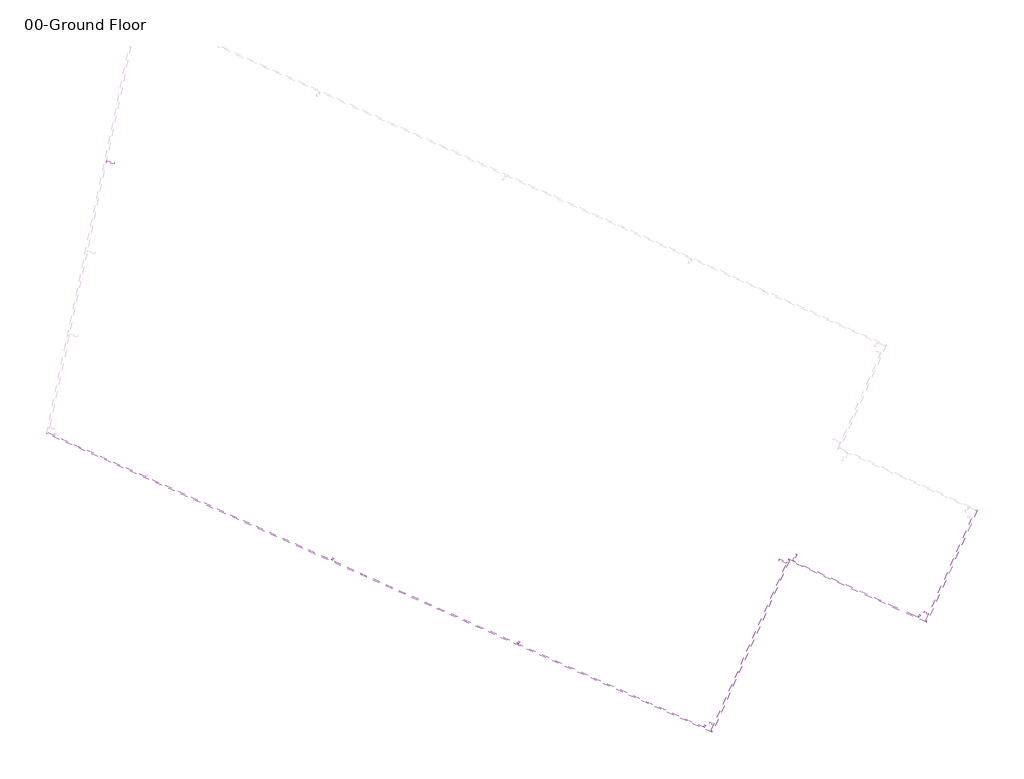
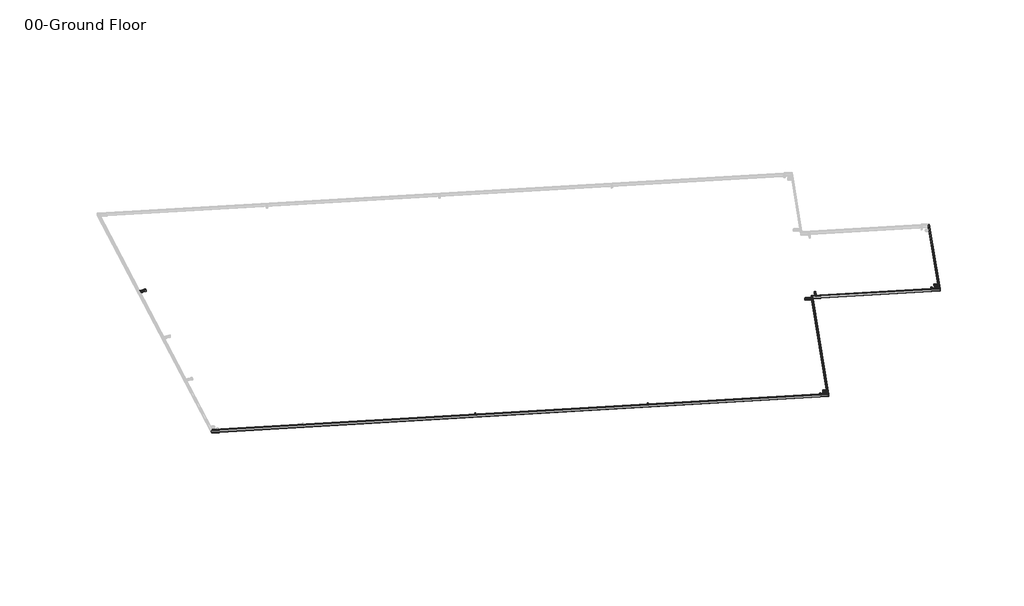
# One storey, part 2 of 3: 13 beams.
"""IFC4 building model written with IfcOpenShell, lengths in millimetres."""

from ifc_helpers import new_model, si_unit, frame, origin, place, context, project, spatial, polyline, ellipse_curve, transform, mapped, element, save
from ifc_brep_helpers import plane_surface, cylinder_surface, revolved_surface, advanced_brep
from components import hss_hollow_structural_section_hss3x2x1_8_139d3190, hss_hollow_structural_section_hss3x2x1_8_9bae5ac0, hss_hollow_structural_section_hss3x2x1_8_4448584e, hss_hollow_structural_section_hss3x2x1_8_ec86c395, hss_hollow_structural_section_hss3x2x1_8_a59be2b4, hss_hollow_structural_section_hss3x2x1_8_24952963, hss_hollow_structural_section_hss3x2x1_8_be35bb29

model = new_model("IFC4")

# Units and contexts
model_context = context("Model", 3, world=origin())
ifc_project = project(units=[si_unit("LENGTHUNIT", "METRE", prefix="MILLI")], contexts=[model_context])

# Site, building, storey
site = spatial("IfcSite", under=ifc_project)
building = spatial("IfcBuilding", under=site)
storey = spatial("IfcBuildingStorey", under=building, Name="00-Ground Floor", Elevation=0.0)

# Beams
placement = place(None, origin())
hss_hollow_structural_section_hss3x2x1_8_shape = hss_hollow_structural_section_hss3x2x1_8_139d3190(model_context)
element("IfcBeam", 1, ObjectType="HSS-Hollow Structural Section : HSS3X2X1/8", at=placement, inside=storey, context=model_context, shape_type="MappedRepresentation", body=[
    mapped(hss_hollow_structural_section_hss3x2x1_8_shape, transform((29824.9886577, -4794.9305897, 16395.0669613), x_axis=(0.9777434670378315, -0.2095164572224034, 0.010980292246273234), y_axis=(0.20870511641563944, 0.9766389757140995, 0.05117113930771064), z_axis=(-0.021444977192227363, -0.04774060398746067, 0.9986295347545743))),
])
hss_hollow_structural_section_hss3x2x1_8_2_shape = hss_hollow_structural_section_hss3x2x1_8_9bae5ac0(model_context)
element("IfcBeam", 2, ObjectType="HSS-Hollow Structural Section : HSS3X2X1/8", at=placement, inside=storey, context=model_context, shape_type="MappedRepresentation", body=[
    mapped(hss_hollow_structural_section_hss3x2x1_8_2_shape, transform((57874.4831972, -20293.602729, 16256.4818369), x_axis=(0.9121951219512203, -0.40975609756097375, 0.0), y_axis=(0.4091945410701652, 0.9109449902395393, 0.052335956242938), z_axis=(-0.021444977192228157, -0.047740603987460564, 0.9986295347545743))),
])
element("IfcBeam", 3, ObjectType="HSS-Hollow Structural Section : HSS3X2X1/8", at=placement, inside=storey, context=model_context, shape_type="MappedRepresentation", body=[
    mapped(hss_hollow_structural_section_hss3x2x1_8_2_shape, transform((50488.6588069, -24090.2832168, 15916.3710717), x_axis=(0.9121951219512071, -0.4097560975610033, 0.0), y_axis=(0.4091945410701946, 0.910944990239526, 0.052335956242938), z_axis=(-0.021444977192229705, -0.04774060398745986, 0.9986295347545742))),
])
hss_hollow_structural_section_hss3x2x1_8_3_shape = hss_hollow_structural_section_hss3x2x1_8_4448584e(model_context)
element("IfcBeam", 4, ObjectType="HSS-Hollow Structural Section : HSS3X2X1/8", at=placement, inside=storey, context=model_context, shape_type="MappedRepresentation", body=[
    mapped(hss_hollow_structural_section_hss3x2x1_8_3_shape, transform((52986.4238112, -18529.7825525, 16235.8350597), x_axis=(0.9121951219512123, -0.4097560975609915, 0.0), y_axis=(0.4091945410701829, 0.9109449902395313, 0.052335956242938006), z_axis=(-0.021444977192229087, -0.04774060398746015, 0.9986295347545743))),
])
hss_hollow_structural_section_hss3x2x1_8_4_shape = hss_hollow_structural_section_hss3x2x1_8_ec86c395(model_context)
element("IfcBeam", 5, ObjectType="HSS-Hollow Structural Section : HSS3X2X1/8", at=placement, inside=storey, context=model_context, shape_type="MappedRepresentation", body=[
    mapped(hss_hollow_structural_section_hss3x2x1_8_4_shape, transform((57680.7339429, -20352.9969021, 16249.4817815), x_axis=(-0.40919454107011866, -0.9109449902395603, -0.052335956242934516), y_axis=(0.9121951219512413, -0.4097560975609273, 0.0), z_axis=(-0.021444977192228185, -0.047740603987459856, 0.9986295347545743))),
])
hss_hollow_structural_section_hss3x2x1_8_5_shape = hss_hollow_structural_section_hss3x2x1_8_a59be2b4(model_context)
element("IfcBeam", 6, ObjectType="HSS-Hollow Structural Section : HSS3X2X1/8", at=placement, inside=storey, context=model_context, shape_type="MappedRepresentation", body=[
    mapped(hss_hollow_structural_section_hss3x2x1_8_5_shape, transform((53373.5930685, -18411.7271821, 16249.7930592), x_axis=(0.40919454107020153, 0.9109449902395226, 0.05233595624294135), y_axis=(-0.9121951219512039, 0.4097560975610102, 0.0), z_axis=(-0.0214449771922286, -0.04774060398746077, 0.9986295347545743))),
])
hss_hollow_structural_section_hss3x2x1_8_6_shape = hss_hollow_structural_section_hss3x2x1_8_24952963(model_context)
element("IfcBeam", 7, ObjectType="HSS-Hollow Structural Section : HSS3X2X1/8", at=placement, inside=storey, context=model_context, shape_type="MappedRepresentation", body=[
    mapped(hss_hollow_structural_section_hss3x2x1_8_6_shape, transform((50298.5513886, -24141.5699695, 15909.8368069), x_axis=(-0.4091945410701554, -0.9109449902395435, -0.052335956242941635), y_axis=(0.9121951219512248, -0.40975609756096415, 0.0), z_axis=(-0.021444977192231, -0.047740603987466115, 0.9986295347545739))),
])
element("IfcBeam", 8, ObjectType="HSS-Hollow Structural Section : HSS3X2X1/8", at=placement, inside=storey, context=model_context, shape_type="MappedRepresentation", body=[
    mapped(hss_hollow_structural_section_hss3x2x1_8_6_shape, transform((43903.6987057, -21269.0158231, 15909.8368069), x_axis=(-0.40919454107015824, -0.9109449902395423, -0.05233595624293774), y_axis=(0.9121951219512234, -0.4097560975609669, 0.0), z_axis=(-0.021444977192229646, -0.04774060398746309, 0.998629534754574))),
])
hss_hollow_structural_section_hss3x2x1_8_7_shape = hss_hollow_structural_section_hss3x2x1_8_be35bb29(model_context)
element("IfcBeam", 9, ObjectType="HSS-Hollow Structural Section : HSS3X2X1/8", at=placement, inside=storey, context=model_context, shape_type="MappedRepresentation", body=[
    mapped(hss_hollow_structural_section_hss3x2x1_8_7_shape, transform((37509.7248478, -18394.5052449, 15909.9492086), x_axis=(-0.409194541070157, -0.910944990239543, -0.05233595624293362), y_axis=(0.912195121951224, -0.4097560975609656, 0.0), z_axis=(-0.021444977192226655, -0.04774060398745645, 0.9986295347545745))),
])
element("IfcBeam", 10, ObjectType="HSS-Hollow Structural Section : HSS5X2X1/8", at=placement, inside=storey, context=model_context, shape_type="AdvancedBrep", body=[
    advanced_brep(
    [(57913.0353778, -20627.3136604, 16279.5085835), (57916.1258305, -20634.8149619, 16273.315454), (59660.4424441, -16751.6339293, 16496.4134399), (59652.5293881, -16754.8686611, 16501.9897587), (57893.4111119, -20575.7872998, 16281.5504394), (59600.9761633, -16774.422245, 16499.9479028), (57890.573401, -20567.7233466, 16275.9741206), (59593.3158492, -16777.0943251, 16493.7547733), (57893.0441712, -20562.2229416, 16160.9176179), (59595.7866194, -16771.59392, 16378.6982707), (57896.134624, -20569.7242431, 16154.7244885), (59603.6996754, -16768.3591883, 16373.1219519), (57915.7588899, -20621.2506036, 16152.6826325), (59655.2529002, -16748.8056044, 16375.1638078), (57918.5966007, -20629.3145568, 16158.2589513), (59662.9132143, -16746.1335243, 16381.3569373), (57913.0985632, -20627.1729974, 16276.5662214), (57893.4742974, -20575.6466369, 16278.6080773), (59601.0393487, -16774.2815821, 16497.0055407), (59652.5925736, -16754.7279982, 16499.0473967), (57914.6437896, -20630.9236482, 16273.4696567), (59656.5491016, -16753.1106323, 16496.2592373), (57917.1145598, -20625.4232432, 16158.413154), (59659.0198718, -16747.6102272, 16381.2027346), (57915.6957044, -20621.3912666, 16155.6249946), (59655.1897147, -16748.9462673, 16378.1061699), (57896.0714385, -20569.864906, 16157.6668505), (59603.6364899, -16768.4998512, 16376.0643139), (57894.5262121, -20566.1142553, 16160.7634153), (59599.6799619, -16770.1172171, 16378.8524733), (57892.0554419, -20571.6146603, 16275.8199179), (59597.2091917, -16775.6176221, 16493.908976)],
    [
        (0, 1, ellipse_curve(frame((57913.1617487, -20627.0323345, 16273.6238593), z_axis=(0.9343635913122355, 0.354394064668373, 0.03700710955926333), x_axis=(0.3556751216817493, -0.933876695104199, -0.03700710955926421)), 8.3336777, 5.8928)),
        (1, 2),
        (2, 3, ellipse_curve(frame((59652.6557591, -16754.5873352, 16496.1050346), z_axis=(0.35567512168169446, -0.93387669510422, -0.03700710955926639), x_axis=(-0.9343635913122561, -0.35439406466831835, -0.03700710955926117)), 8.3336777, 5.8928)),
        (3, 0),
        (4, 0),
        (3, 5),
        (5, 4),
        (6, 4, ellipse_curve(frame((57893.5374829, -20575.505974, 16275.6657153), z_axis=(0.9343635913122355, 0.354394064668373, 0.03700710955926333), x_axis=(0.3556751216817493, -0.933876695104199, -0.03700710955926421)), 8.3336777, 5.8928)),
        (5, 7, ellipse_curve(frame((59601.1025342, -16774.1409192, 16494.0631787), z_axis=(0.35567512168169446, -0.93387669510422, -0.03700710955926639), x_axis=(-0.9343635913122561, -0.35439406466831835, -0.03700710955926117)), 8.3336777, 5.8928)),
        (7, 6),
        (8, 6),
        (7, 9),
        (9, 8),
        (10, 8, ellipse_curve(frame((57896.008253, -20570.005569, 16160.6092126), z_axis=(0.9343635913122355, 0.354394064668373, 0.03700710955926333), x_axis=(0.3556751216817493, -0.933876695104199, -0.03700710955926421)), 8.3336777, 5.8928)),
        (9, 11, ellipse_curve(frame((59603.5733044, -16768.6405141, 16379.006676), z_axis=(0.35567512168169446, -0.93387669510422, -0.03700710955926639), x_axis=(-0.9343635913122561, -0.35439406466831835, -0.03700710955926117)), 8.3336777, 5.8928)),
        (11, 10),
        (12, 10),
        (11, 13),
        (13, 12),
        (14, 12, ellipse_curve(frame((57915.6325189, -20621.5319295, 16158.5673567), z_axis=(0.9343635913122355, 0.354394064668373, 0.03700710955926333), x_axis=(0.3556751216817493, -0.933876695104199, -0.03700710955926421)), 8.3336777, 5.8928)),
        (13, 15, ellipse_curve(frame((59655.1265293, -16749.0869302, 16381.0485319), z_axis=(0.35567512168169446, -0.93387669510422, -0.03700710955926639), x_axis=(-0.9343635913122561, -0.35439406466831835, -0.03700710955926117)), 8.3336777, 5.8928)),
        (15, 14),
        (1, 14),
        (15, 2),
        (16, 17),
        (17, 18),
        (18, 19),
        (19, 16),
        (20, 16, ellipse_curve(frame((57913.1617487, -20627.0323345, 16273.6238593), z_axis=(-0.9343635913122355, -0.354394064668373, -0.03700710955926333), x_axis=(-0.3556751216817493, 0.933876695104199, 0.03700710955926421)), 4.1668388, 2.9464)),
        (19, 21, ellipse_curve(frame((59652.6557591, -16754.5873352, 16496.1050346), z_axis=(-0.35567512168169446, 0.93387669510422, 0.03700710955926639), x_axis=(0.9343635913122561, 0.35439406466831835, 0.03700710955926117)), 4.1668388, 2.9464)),
        (21, 20),
        (22, 20),
        (21, 23),
        (23, 22),
        (24, 22, ellipse_curve(frame((57915.6325189, -20621.5319295, 16158.5673567), z_axis=(-0.9343635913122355, -0.354394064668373, -0.03700710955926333), x_axis=(-0.3556751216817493, 0.933876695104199, 0.03700710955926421)), 4.1668388, 2.9464)),
        (23, 25, ellipse_curve(frame((59655.1265293, -16749.0869302, 16381.0485319), z_axis=(-0.35567512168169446, 0.93387669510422, 0.03700710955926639), x_axis=(0.9343635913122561, 0.35439406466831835, 0.03700710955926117)), 4.1668388, 2.9464)),
        (25, 24),
        (26, 24),
        (25, 27),
        (27, 26),
        (28, 26, ellipse_curve(frame((57896.008253, -20570.005569, 16160.6092126), z_axis=(-0.9343635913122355, -0.354394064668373, -0.03700710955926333), x_axis=(-0.3556751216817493, 0.933876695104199, 0.03700710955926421)), 4.1668388, 2.9464)),
        (27, 29, ellipse_curve(frame((59603.5733044, -16768.6405141, 16379.006676), z_axis=(-0.35567512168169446, 0.93387669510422, 0.03700710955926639), x_axis=(0.9343635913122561, 0.35439406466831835, 0.03700710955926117)), 4.1668388, 2.9464)),
        (29, 28),
        (30, 28),
        (29, 31),
        (31, 30),
        (17, 30, ellipse_curve(frame((57893.5374829, -20575.505974, 16275.6657153), z_axis=(-0.9343635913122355, -0.354394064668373, -0.03700710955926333), x_axis=(-0.3556751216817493, 0.933876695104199, 0.03700710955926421)), 4.1668388, 2.9464)),
        (31, 18, ellipse_curve(frame((59601.1025342, -16774.1409192, 16494.0631787), z_axis=(-0.35567512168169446, 0.93387669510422, 0.03700710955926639), x_axis=(0.9343635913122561, 0.35439406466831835, 0.03700710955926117)), 4.1668388, 2.9464)),
    ],
    [
        cylinder_surface(frame((57921.1439885, -20609.2623484, 16274.6447873), z_axis=(-0.4091945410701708, -0.9109449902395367, -0.052335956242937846), x_axis=(-0.9121951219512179, 0.4097560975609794, 0.0)), 5.8928),
        plane_surface(frame((57921.0176175, -20609.5436742, 16280.5295114), z_axis=(-0.021444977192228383, -0.04774060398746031, 0.9986295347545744), x_axis=(0.40919454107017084, 0.9109449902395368, 0.05233595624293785))),
        cylinder_surface(frame((57885.5552431, -20593.2759601, 16274.6447873), z_axis=(-0.4091945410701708, -0.9109449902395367, -0.052335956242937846), x_axis=(-0.9121951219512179, 0.4097560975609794, 0.0)), 5.8928),
        plane_surface(frame((57880.1798597, -20590.8613494, 16274.6447873), z_axis=(-0.912195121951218, 0.40975609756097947, 0.0), x_axis=(0.40919454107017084, 0.9109449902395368, 0.05233595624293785))),
        cylinder_surface(frame((57888.0260133, -20587.7755551, 16159.5882846), z_axis=(-0.4091945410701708, -0.9109449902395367, -0.052335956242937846), x_axis=(-0.9121951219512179, 0.4097560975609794, 0.0)), 5.8928),
        plane_surface(frame((57888.1523842, -20587.4942292, 16153.7035605), z_axis=(0.021444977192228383, 0.04774060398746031, -0.9986295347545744), x_axis=(0.40919454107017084, 0.9109449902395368, 0.05233595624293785))),
        cylinder_surface(frame((57923.6147586, -20603.7619434, 16159.5882846), z_axis=(-0.4091945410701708, -0.9109449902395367, -0.052335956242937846), x_axis=(-0.9121951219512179, 0.4097560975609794, 0.0)), 5.8928),
        plane_surface(frame((57928.9901421, -20606.1765541, 16159.5882846), z_axis=(0.912195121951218, -0.40975609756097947, 0.0), x_axis=(0.40919454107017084, 0.9109449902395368, 0.05233595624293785))),
        plane_surface(frame((57885.4920576, -20593.416623, 16277.5871494), z_axis=(0.021444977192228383, 0.04774060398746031, -0.9986295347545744), x_axis=(0.40919454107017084, 0.9109449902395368, 0.05233595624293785))),
        revolved_surface(polyline([(59651.17371820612, -16750.696021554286, 16496.259237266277), (57909.268406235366, -20628.509037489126, 16273.469656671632)]), (57921.1439885, -20609.2623484, 16274.6447873), (0.4091945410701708, 0.9109449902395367, 0.052335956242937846)),
        plane_surface(frame((57923.8316802, -20610.4696538, 16274.6447873), z_axis=(-0.912195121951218, 0.40975609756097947, 0.0), x_axis=(0.40919454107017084, 0.9109449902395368, 0.05233595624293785))),
        revolved_surface(polyline([(59653.64448835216, -16745.195616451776, 16381.202734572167), (57911.739176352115, -20623.00863245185, 16158.413153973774)]), (57923.6147586, -20603.7619434, 16159.5882846), (0.4091945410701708, 0.9109449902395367, 0.052335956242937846)),
        plane_surface(frame((57923.6779441, -20603.6212804, 16156.6459226), z_axis=(-0.021444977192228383, -0.04774060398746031, 0.9986295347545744), x_axis=(0.40919454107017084, 0.9109449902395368, 0.05233595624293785))),
        revolved_surface(polyline([(59602.09126351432, -16764.749200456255, 16379.160878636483), (57892.11491054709, -20571.482271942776, 16160.455009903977)]), (57888.0260133, -20587.7755551, 16159.5882846), (0.4091945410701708, 0.9109449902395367, 0.052335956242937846)),
        plane_surface(frame((57885.3383216, -20586.5682497, 16159.5882846), z_axis=(0.912195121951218, -0.40975609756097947, 0.0), x_axis=(0.40919454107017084, 0.9109449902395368, 0.05233595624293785))),
        revolved_surface(polyline([(59599.62049327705, -16770.24960553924, 16494.217381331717), (57889.644140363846, -20576.982676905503, 16275.511512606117)]), (57885.5552431, -20593.2759601, 16274.6447873), (0.4091945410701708, 0.9109449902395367, 0.052335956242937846)),
        plane_surface(frame((59591.555371, -16781.0134849, 16575.735068), z_axis=(-0.3556751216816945, 0.9338766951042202, 0.0370071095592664), x_axis=(0.9346096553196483, 0.35539618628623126, 0.014083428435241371))),
        plane_surface(frame((57888.8129228, -20571.6425065, 16357.9544153), z_axis=(-0.9343635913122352, -0.3543940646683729, -0.037007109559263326), x_axis=(0.35632103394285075, -0.9293105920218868, -0.09704197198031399))),
    ],
    [
        (0, [[1, 2, 3, 4]]),
        (1, [[5, -4, 6, 7]]),
        (2, [[8, -7, 9, 10]]),
        (3, [[11, -10, 12, 13]]),
        (4, [[14, -13, 15, 16]]),
        (5, [[17, -16, 18, 19]]),
        (6, [[20, -19, 21, 22]]),
        (7, [[23, -22, 24, -2]]),
        (8, [[25, 26, 27, 28]]),
        (9, [[29, -28, 30, 31]]),
        (10, [[32, -31, 33, 34]]),
        (11, [[35, -34, 36, 37]]),
        (12, [[38, -37, 39, 40]]),
        (13, [[41, -40, 42, 43]]),
        (14, [[44, -43, 45, 46]]),
        (15, [[47, -46, 48, -26]]),
        (16, [[-24, -21, -18, -15, -12, -9, -6, -3], [-48, -45, -42, -39, -36, -33, -30, -27]]),
        (17, [[-1, -5, -8, -11, -14, -17, -20, -23], [-25, -29, -32, -35, -38, -41, -44, -47]]),
    ],
),
])
element("IfcBeam", 11, ObjectType="HSS-Hollow Structural Section : HSS5X2X1/8", at=placement, inside=storey, context=model_context, shape_type="AdvancedBrep", body=[
    advanced_brep(
    [(53186.4051338, -18504.1214652, 16279.5085835), (53189.4955866, -18511.6227668, 16273.315454), (57916.1258305, -20634.8149619, 16273.315454), (57913.0353778, -20627.3136604, 16279.5085835), (53166.780868, -18452.5951047, 16281.5504394), (57893.4111119, -20575.7872998, 16281.5504394), (53163.9431571, -18444.5311515, 16275.9741206), (57890.573401, -20567.7233466, 16275.9741206), (53166.4139273, -18439.0307465, 16160.9176179), (57893.0441712, -20562.2229416, 16160.9176179), (53169.5043801, -18446.532048, 16154.7244885), (57896.134624, -20569.7242431, 16154.7244885), (53189.128646, -18498.0584085, 16152.6826325), (57915.7588899, -20621.2506036, 16152.6826325), (53191.9663568, -18506.1223617, 16158.2589513), (57918.5966007, -20629.3145568, 16158.2589513), (53186.4683193, -18503.9808023, 16276.5662214), (53166.8440535, -18452.4544418, 16278.6080773), (57893.4742974, -20575.6466369, 16278.6080773), (57913.0985632, -20627.1729974, 16276.5662214), (53188.0135457, -18507.7314531, 16273.4696567), (57914.6437896, -20630.9236482, 16273.4696567), (53190.4843159, -18502.231048, 16158.413154), (57917.1145598, -20625.4232432, 16158.413154), (53189.0654605, -18498.1990714, 16155.6249946), (57915.6957044, -20621.3912666, 16155.6249946), (53169.4411946, -18446.6727109, 16157.6668505), (57896.0714385, -20569.864906, 16157.6668505), (53167.8959682, -18442.9220602, 16160.7634153), (57894.5262121, -20566.1142553, 16160.7634153), (53165.425198, -18448.4224652, 16275.8199179), (57892.0554419, -20571.6146603, 16275.8199179)],
    [
        (0, 1, ellipse_curve(frame((53186.5315048, -18503.8401394, 16273.6238593), z_axis=(0.9343635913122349, 0.354394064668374, 0.037007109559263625), x_axis=(-0.3556751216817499, 0.9338766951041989, 0.03700710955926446)), 8.3336777, 5.8928)),
        (1, 2),
        (2, 3, ellipse_curve(frame((57913.1617487, -20627.0323345, 16273.6238593), z_axis=(-0.9343635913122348, -0.354394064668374, -0.03700710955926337), x_axis=(-0.3556751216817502, 0.9338766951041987, 0.03700710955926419)), 8.3336777, 5.8928)),
        (3, 0),
        (4, 0),
        (3, 5),
        (5, 4),
        (6, 4, ellipse_curve(frame((53166.9072389, -18452.3137789, 16275.6657153), z_axis=(0.9343635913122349, 0.354394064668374, 0.037007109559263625), x_axis=(-0.3556751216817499, 0.9338766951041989, 0.03700710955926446)), 8.3336777, 5.8928)),
        (5, 7, ellipse_curve(frame((57893.5374829, -20575.505974, 16275.6657153), z_axis=(-0.9343635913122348, -0.354394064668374, -0.03700710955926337), x_axis=(-0.3556751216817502, 0.9338766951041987, 0.03700710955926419)), 8.3336777, 5.8928)),
        (7, 6),
        (8, 6),
        (7, 9),
        (9, 8),
        (10, 8, ellipse_curve(frame((53169.3780091, -18446.8133738, 16160.6092126), z_axis=(0.9343635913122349, 0.354394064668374, 0.037007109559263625), x_axis=(-0.3556751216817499, 0.9338766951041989, 0.03700710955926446)), 8.3336777, 5.8928)),
        (9, 11, ellipse_curve(frame((57896.008253, -20570.005569, 16160.6092126), z_axis=(-0.9343635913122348, -0.354394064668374, -0.03700710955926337), x_axis=(-0.3556751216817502, 0.9338766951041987, 0.03700710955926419)), 8.3336777, 5.8928)),
        (11, 10),
        (12, 10),
        (11, 13),
        (13, 12),
        (14, 12, ellipse_curve(frame((53189.002275, -18498.3397344, 16158.5673567), z_axis=(0.9343635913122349, 0.354394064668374, 0.037007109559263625), x_axis=(-0.3556751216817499, 0.9338766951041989, 0.03700710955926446)), 8.3336777, 5.8928)),
        (13, 15, ellipse_curve(frame((57915.6325189, -20621.5319295, 16158.5673567), z_axis=(-0.9343635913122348, -0.354394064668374, -0.03700710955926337), x_axis=(-0.3556751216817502, 0.9338766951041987, 0.03700710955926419)), 8.3336777, 5.8928)),
        (15, 14),
        (1, 14),
        (15, 2),
        (16, 17),
        (17, 18),
        (18, 19),
        (19, 16),
        (20, 16, ellipse_curve(frame((53186.5315048, -18503.8401394, 16273.6238593), z_axis=(-0.9343635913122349, -0.354394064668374, -0.037007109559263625), x_axis=(0.3556751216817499, -0.9338766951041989, -0.03700710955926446)), 4.1668388, 2.9464)),
        (19, 21, ellipse_curve(frame((57913.1617487, -20627.0323345, 16273.6238593), z_axis=(0.9343635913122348, 0.354394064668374, 0.03700710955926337), x_axis=(0.3556751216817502, -0.9338766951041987, -0.03700710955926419)), 4.1668388, 2.9464)),
        (21, 20),
        (22, 20),
        (21, 23),
        (23, 22),
        (24, 22, ellipse_curve(frame((53189.002275, -18498.3397344, 16158.5673567), z_axis=(-0.9343635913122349, -0.354394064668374, -0.037007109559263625), x_axis=(0.3556751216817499, -0.9338766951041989, -0.03700710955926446)), 4.1668388, 2.9464)),
        (23, 25, ellipse_curve(frame((57915.6325189, -20621.5319295, 16158.5673567), z_axis=(0.9343635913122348, 0.354394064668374, 0.03700710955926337), x_axis=(0.3556751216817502, -0.9338766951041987, -0.03700710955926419)), 4.1668388, 2.9464)),
        (25, 24),
        (26, 24),
        (25, 27),
        (27, 26),
        (28, 26, ellipse_curve(frame((53169.3780091, -18446.8133738, 16160.6092126), z_axis=(-0.9343635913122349, -0.354394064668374, -0.037007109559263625), x_axis=(0.3556751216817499, -0.9338766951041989, -0.03700710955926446)), 4.1668388, 2.9464)),
        (27, 29, ellipse_curve(frame((57896.008253, -20570.005569, 16160.6092126), z_axis=(0.9343635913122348, 0.354394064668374, 0.03700710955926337), x_axis=(0.3556751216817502, -0.9338766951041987, -0.03700710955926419)), 4.1668388, 2.9464)),
        (29, 28),
        (30, 28),
        (29, 31),
        (31, 30),
        (17, 30, ellipse_curve(frame((53166.9072389, -18452.3137789, 16275.6657153), z_axis=(-0.9343635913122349, -0.354394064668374, -0.037007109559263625), x_axis=(0.3556751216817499, -0.9338766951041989, -0.03700710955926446)), 4.1668388, 2.9464)),
        (31, 18, ellipse_curve(frame((57893.5374829, -20575.505974, 16275.6657153), z_axis=(0.9343635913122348, 0.354394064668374, 0.03700710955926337), x_axis=(0.3556751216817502, -0.9338766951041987, -0.03700710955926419)), 4.1668388, 2.9464)),
    ],
    [
        cylinder_surface(frame((53168.7371321, -18495.8469453, 16273.6238593), z_axis=(-0.9121951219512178, 0.4097560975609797, 0.0), x_axis=(0.4091945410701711, 0.9109449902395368, 0.052335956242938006)), 5.8928),
        plane_surface(frame((53168.6107612, -18496.1282711, 16279.5085835), z_axis=(-0.021444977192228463, -0.04774060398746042, 0.9986295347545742), x_axis=(0.9121951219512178, -0.4097560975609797, 0.0))),
        cylinder_surface(frame((53184.7016116, -18460.306973, 16275.6657153), z_axis=(-0.9121951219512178, 0.4097560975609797, 0.0), x_axis=(0.4091945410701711, 0.9109449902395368, 0.052335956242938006)), 5.8928),
        plane_surface(frame((53187.1129132, -18454.9389564, 16275.9741206), z_axis=(0.4091945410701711, 0.9109449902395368, 0.052335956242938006), x_axis=(0.9121951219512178, -0.4097560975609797, 0.0))),
        cylinder_surface(frame((53187.1723818, -18454.806568, 16160.6092126), z_axis=(-0.9121951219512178, 0.4097560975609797, 0.0), x_axis=(0.4091945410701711, 0.9109449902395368, 0.052335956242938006)), 5.8928),
        plane_surface(frame((53187.2987528, -18454.5252422, 16154.7244885), z_axis=(0.021444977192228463, 0.04774060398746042, -0.9986295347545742), x_axis=(0.9121951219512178, -0.4097560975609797, 0.0))),
        cylinder_surface(frame((53171.2079023, -18490.3465402, 16158.5673567), z_axis=(-0.9121951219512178, 0.4097560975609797, 0.0), x_axis=(0.4091945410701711, 0.9109449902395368, 0.052335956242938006)), 5.8928),
        plane_surface(frame((53168.7966007, -18495.7145568, 16158.2589513), z_axis=(-0.4091945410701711, -0.9109449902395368, -0.052335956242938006), x_axis=(0.9121951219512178, -0.4097560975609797, 0.0))),
        plane_surface(frame((53184.6384262, -18460.4476359, 16278.6080773), z_axis=(0.021444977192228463, 0.04774060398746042, -0.9986295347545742), x_axis=(0.9121951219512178, -0.4097560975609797, 0.0))),
        revolved_surface(polyline([(57917.05509117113, -20625.55563160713, 16273.778061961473), (53185.04946389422, -18499.948825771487, 16273.778061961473)]), (53168.7371321, -18495.8469453, 16273.6238593), (0.9121951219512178, -0.4097560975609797, 0.0)),
        plane_surface(frame((53167.5314813, -18498.5309536, 16273.4696567), z_axis=(0.4091945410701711, 0.9109449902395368, 0.052335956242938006), x_axis=(0.9121951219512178, -0.4097560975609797, 0.0))),
        revolved_surface(polyline([(57919.52586140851, -20620.055226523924, 16158.721559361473), (53187.520234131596, -18494.44842068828, 16158.721559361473)]), (53171.2079023, -18490.3465402, 16158.5673567), (0.9121951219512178, -0.4097560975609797, 0.0)),
        plane_surface(frame((53171.2710878, -18490.2058773, 16155.6249946), z_axis=(-0.021444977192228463, -0.04774060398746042, 0.9986295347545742), x_axis=(0.9121951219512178, -0.4097560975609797, 0.0))),
        revolved_surface(polyline([(57899.9015954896, -20568.528866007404, 16160.763415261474), (53167.89596819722, -18442.922060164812, 16160.763415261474)]), (53187.1723818, -18454.806568, 16160.6092126), (0.9121951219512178, -0.4097560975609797, 0.0)),
        plane_surface(frame((53188.3780326, -18452.1225597, 16160.7634153), z_axis=(-0.4091945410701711, -0.9109449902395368, -0.052335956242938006), x_axis=(0.9121951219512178, -0.4097560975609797, 0.0))),
        revolved_surface(polyline([(57897.43082537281, -20574.029271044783, 16275.819917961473), (53165.42519801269, -18448.42246517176, 16275.819917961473)]), (53184.7016116, -18460.306973, 16275.6657153), (0.9121951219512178, -0.4097560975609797, 0.0)),
        plane_surface(frame((57888.8129228, -20571.6425065, 16357.9544153), z_axis=(0.934363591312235, 0.35439406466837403, 0.037007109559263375), x_axis=(0.3563210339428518, -0.9293105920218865, -0.09704197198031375))),
        plane_surface(frame((53187.7351084, -18515.5419266, 16355.2957487), z_axis=(-0.9343635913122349, -0.354394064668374, -0.037007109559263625), x_axis=(0.35632103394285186, -0.9293105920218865, -0.09704197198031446))),
    ],
    [
        (0, [[1, 2, 3, 4]]),
        (1, [[5, -4, 6, 7]]),
        (2, [[8, -7, 9, 10]]),
        (3, [[11, -10, 12, 13]]),
        (4, [[14, -13, 15, 16]]),
        (5, [[17, -16, 18, 19]]),
        (6, [[20, -19, 21, 22]]),
        (7, [[23, -22, 24, -2]]),
        (8, [[25, 26, 27, 28]]),
        (9, [[29, -28, 30, 31]]),
        (10, [[32, -31, 33, 34]]),
        (11, [[35, -34, 36, 37]]),
        (12, [[38, -37, 39, 40]]),
        (13, [[41, -40, 42, 43]]),
        (14, [[44, -43, 45, 46]]),
        (15, [[47, -46, 48, -26]]),
        (16, [[-24, -21, -18, -15, -12, -9, -6, -3], [-48, -45, -42, -39, -36, -33, -30, -27]]),
        (17, [[-1, -5, -8, -11, -14, -17, -20, -23], [-25, -29, -32, -35, -38, -41, -44, -47]]),
    ],
),
])
element("IfcBeam", 12, ObjectType="HSS-Hollow Structural Section : HSS5X2X1/8", at=placement, inside=storey, context=model_context, shape_type="AdvancedBrep", body=[
    advanced_brep(
    [(50534.4946594, -24407.7793072, 15940.3293994), (50537.5851122, -24415.2806087, 15934.13627), (53189.4955866, -18511.6227668, 16273.315454), (53186.4051338, -18504.1214652, 16279.5085835), (50514.8703935, -24356.2529467, 15942.3712554), (53166.780868, -18452.5951047, 16281.5504394), (50512.0326827, -24348.1889935, 15936.7949366), (53163.9431571, -18444.5311515, 16275.9741206), (50514.5034528, -24342.6885884, 15821.7384339), (53166.4139273, -18439.0307465, 16160.9176179), (50517.5939056, -24350.1898899, 15815.5453044), (53169.5043801, -18446.532048, 16154.7244885), (50537.2181715, -24401.7162505, 15813.5034485), (53189.128646, -18498.0584085, 16152.6826325), (50540.0558824, -24409.7802037, 15819.0797673), (53191.9663568, -18506.1223617, 16158.2589513), (50534.5578449, -24407.6386443, 15937.3870374), (50514.933579, -24356.1122837, 15939.4288933), (53166.8440535, -18452.4544418, 16278.6080773), (53186.4683193, -18503.9808023, 16276.5662214), (50536.1030713, -24411.389295, 15934.2904726), (53188.0135457, -18507.7314531, 16273.4696567), (50538.5738414, -24405.88889, 15819.23397), (53190.4843159, -18502.231048, 16158.413154), (50537.154986, -24401.8569134, 15816.4458106), (53189.0654605, -18498.1990714, 16155.6249946), (50517.5307202, -24350.3305529, 15818.4876665), (53169.4411946, -18446.6727109, 16157.6668505), (50515.9854938, -24346.5799021, 15821.5842312), (53167.8959682, -18442.9220602, 16160.7634153), (50513.5147236, -24352.0803071, 15936.6407339), (53165.425198, -18448.4224652, 16275.8199179)],
    [
        (0, 1, ellipse_curve(frame((50534.6210304, -24407.4979813, 15934.4446753), z_axis=(0.9343635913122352, 0.354394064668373, 0.0370071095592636), x_axis=(0.3556751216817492, -0.9338766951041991, -0.037007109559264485)), 8.3336777, 5.8928)),
        (1, 2),
        (2, 3, ellipse_curve(frame((53186.5315048, -18503.8401394, 16273.6238593), z_axis=(-0.9343635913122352, -0.354394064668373, -0.0370071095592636), x_axis=(0.3556751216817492, -0.9338766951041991, -0.037007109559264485)), 8.3336777, 5.8928)),
        (3, 0),
        (4, 0),
        (3, 5),
        (5, 4),
        (6, 4, ellipse_curve(frame((50514.9967645, -24355.9716208, 15936.4865312), z_axis=(0.9343635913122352, 0.354394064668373, 0.0370071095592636), x_axis=(0.3556751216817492, -0.9338766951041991, -0.037007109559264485)), 8.3336777, 5.8928)),
        (5, 7, ellipse_curve(frame((53166.9072389, -18452.3137789, 16275.6657153), z_axis=(-0.9343635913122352, -0.354394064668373, -0.0370071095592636), x_axis=(0.3556751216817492, -0.9338766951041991, -0.037007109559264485)), 8.3336777, 5.8928)),
        (7, 6),
        (8, 6),
        (7, 9),
        (9, 8),
        (10, 8, ellipse_curve(frame((50517.4675347, -24350.4712158, 15821.4300286), z_axis=(0.9343635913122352, 0.354394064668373, 0.0370071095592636), x_axis=(0.3556751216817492, -0.9338766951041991, -0.037007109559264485)), 8.3336777, 5.8928)),
        (9, 11, ellipse_curve(frame((53169.3780091, -18446.8133738, 16160.6092126), z_axis=(-0.9343635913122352, -0.354394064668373, -0.0370071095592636), x_axis=(0.3556751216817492, -0.9338766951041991, -0.037007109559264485)), 8.3336777, 5.8928)),
        (11, 10),
        (12, 10),
        (11, 13),
        (13, 12),
        (14, 12, ellipse_curve(frame((50537.0918005, -24401.9975763, 15819.3881726), z_axis=(0.9343635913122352, 0.354394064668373, 0.0370071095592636), x_axis=(0.3556751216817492, -0.9338766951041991, -0.037007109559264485)), 8.3336777, 5.8928)),
        (13, 15, ellipse_curve(frame((53189.002275, -18498.3397344, 16158.5673567), z_axis=(-0.9343635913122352, -0.354394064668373, -0.0370071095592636), x_axis=(0.3556751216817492, -0.9338766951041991, -0.037007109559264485)), 8.3336777, 5.8928)),
        (15, 14),
        (1, 14),
        (15, 2),
        (16, 17),
        (17, 18),
        (18, 19),
        (19, 16),
        (20, 16, ellipse_curve(frame((50534.6210304, -24407.4979813, 15934.4446753), z_axis=(-0.9343635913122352, -0.354394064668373, -0.0370071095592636), x_axis=(-0.3556751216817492, 0.9338766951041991, 0.037007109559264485)), 4.1668388, 2.9464)),
        (19, 21, ellipse_curve(frame((53186.5315048, -18503.8401394, 16273.6238593), z_axis=(0.9343635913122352, 0.354394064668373, 0.0370071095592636), x_axis=(-0.3556751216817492, 0.9338766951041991, 0.037007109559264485)), 4.1668388, 2.9464)),
        (21, 20),
        (22, 20),
        (21, 23),
        (23, 22),
        (24, 22, ellipse_curve(frame((50537.0918005, -24401.9975763, 15819.3881726), z_axis=(-0.9343635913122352, -0.354394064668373, -0.0370071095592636), x_axis=(-0.3556751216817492, 0.9338766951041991, 0.037007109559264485)), 4.1668388, 2.9464)),
        (23, 25, ellipse_curve(frame((53189.002275, -18498.3397344, 16158.5673567), z_axis=(0.9343635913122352, 0.354394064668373, 0.0370071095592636), x_axis=(-0.3556751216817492, 0.9338766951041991, 0.037007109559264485)), 4.1668388, 2.9464)),
        (25, 24),
        (26, 24),
        (25, 27),
        (27, 26),
        (28, 26, ellipse_curve(frame((50517.4675347, -24350.4712158, 15821.4300286), z_axis=(-0.9343635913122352, -0.354394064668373, -0.0370071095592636), x_axis=(-0.3556751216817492, 0.9338766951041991, 0.037007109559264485)), 4.1668388, 2.9464)),
        (27, 29, ellipse_curve(frame((53169.3780091, -18446.8133738, 16160.6092126), z_axis=(0.9343635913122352, 0.354394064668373, 0.0370071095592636), x_axis=(-0.3556751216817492, 0.9338766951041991, 0.037007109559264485)), 4.1668388, 2.9464)),
        (29, 28),
        (30, 28),
        (29, 31),
        (31, 30),
        (17, 30, ellipse_curve(frame((50514.9967645, -24355.9716208, 15936.4865312), z_axis=(-0.9343635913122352, -0.354394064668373, -0.0370071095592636), x_axis=(-0.3556751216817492, 0.9338766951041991, 0.037007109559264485)), 4.1668388, 2.9464)),
        (31, 18, ellipse_curve(frame((53166.9072389, -18452.3137789, 16275.6657153), z_axis=(0.9343635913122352, 0.354394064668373, 0.0370071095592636), x_axis=(-0.3556751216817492, 0.9338766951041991, 0.037007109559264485)), 4.1668388, 2.9464)),
    ],
    [
        cylinder_surface(frame((50542.6032701, -24389.7279952, 15935.4656033), z_axis=(-0.40919454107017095, -0.9109449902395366, -0.05233595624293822), x_axis=(-0.9121951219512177, 0.4097560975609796, 0.0)), 5.8928),
        plane_surface(frame((50542.4768991, -24390.0093211, 15941.3503274), z_axis=(-0.02144497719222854, -0.04774060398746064, 0.9986295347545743), x_axis=(0.409194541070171, 0.9109449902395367, 0.05233595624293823))),
        cylinder_surface(frame((50507.0145247, -24373.7416069, 15935.4656033), z_axis=(-0.40919454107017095, -0.9109449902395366, -0.05233595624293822), x_axis=(-0.9121951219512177, 0.4097560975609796, 0.0)), 5.8928),
        plane_surface(frame((50501.6391413, -24371.3269962, 15935.4656033), z_axis=(-0.9121951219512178, 0.40975609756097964, 0.0), x_axis=(0.409194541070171, 0.9109449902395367, 0.05233595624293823))),
        cylinder_surface(frame((50509.4852949, -24368.2412019, 15820.4091006), z_axis=(-0.40919454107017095, -0.9109449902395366, -0.05233595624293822), x_axis=(-0.9121951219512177, 0.4097560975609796, 0.0)), 5.8928),
        plane_surface(frame((50509.6116659, -24367.9598761, 15814.5243765), z_axis=(0.02144497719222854, 0.04774060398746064, -0.9986295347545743), x_axis=(0.409194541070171, 0.9109449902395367, 0.05233595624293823))),
        cylinder_surface(frame((50545.0740403, -24384.2275902, 15820.4091006), z_axis=(-0.40919454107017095, -0.9109449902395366, -0.05233595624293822), x_axis=(-0.9121951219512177, 0.4097560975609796, 0.0)), 5.8928),
        plane_surface(frame((50550.4494237, -24386.6422009, 15820.4091006), z_axis=(0.9121951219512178, -0.40975609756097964, 0.0), x_axis=(0.409194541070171, 0.9109449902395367, 0.05233595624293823))),
        plane_surface(frame((50506.9513393, -24373.8822699, 15938.4079653), z_axis=(0.02144497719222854, 0.04774060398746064, -0.9986295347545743), x_axis=(0.409194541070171, 0.9109449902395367, 0.05233595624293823))),
        revolved_surface(polyline([(53185.0494638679, -18499.948825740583, 16273.778062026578), (50530.72768784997, -24408.974684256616, 15934.290472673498)]), (50542.6032701, -24389.7279952, 15935.4656033), (0.40919454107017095, 0.9109449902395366, 0.05233595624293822)),
        plane_surface(frame((50545.2909618, -24390.9353006, 15935.4656033), z_axis=(-0.9121951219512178, 0.40975609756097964, 0.0), x_axis=(0.409194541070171, 0.9109449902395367, 0.05233595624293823))),
        revolved_surface(polyline([(53187.52023407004, -18494.448420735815, 16158.721559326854), (50533.19845803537, -24403.474279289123, 15819.233969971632)]), (50545.0740403, -24384.2275902, 15820.4091006), (0.40919454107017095, 0.9109449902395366, 0.05233595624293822)),
        plane_surface(frame((50545.1372258, -24384.0869273, 15817.4667385), z_axis=(-0.02144497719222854, -0.04774060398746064, 0.9986295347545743), x_axis=(0.409194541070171, 0.9109449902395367, 0.05233595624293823))),
        revolved_surface(polyline([(53167.89596819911, -18442.922060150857, 16160.763415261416), (50513.57419216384, -24351.9479187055, 15821.275825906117)]), (50509.4852949, -24368.2412019, 15820.4091006), (0.40919454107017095, 0.9109449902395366, 0.05233595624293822)),
        plane_surface(frame((50506.7976032, -24367.0338965, 15820.4091006), z_axis=(0.9121951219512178, -0.40975609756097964, 0.0), x_axis=(0.409194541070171, 0.9109449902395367, 0.05233595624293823))),
        revolved_surface(polyline([(53165.425197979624, -18448.422465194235, 16275.819917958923), (50511.10342196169, -24357.44832371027, 15936.332328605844)]), (50507.0145247, -24373.7416069, 15935.4656033), (0.40919454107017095, 0.9109449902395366, 0.05233595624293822)),
        plane_surface(frame((53187.7351084, -18515.5419266, 16355.2957487), z_axis=(0.9343635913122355, 0.35439406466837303, 0.037007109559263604), x_axis=(0.35632103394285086, -0.9293105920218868, -0.09704197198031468))),
        plane_surface(frame((50510.2722044, -24352.1081533, 16018.7752312), z_axis=(-0.9343635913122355, -0.35439406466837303, -0.037007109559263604), x_axis=(0.35632103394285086, -0.9293105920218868, -0.09704197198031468))),
    ],
    [
        (0, [[1, 2, 3, 4]]),
        (1, [[5, -4, 6, 7]]),
        (2, [[8, -7, 9, 10]]),
        (3, [[11, -10, 12, 13]]),
        (4, [[14, -13, 15, 16]]),
        (5, [[17, -16, 18, 19]]),
        (6, [[20, -19, 21, 22]]),
        (7, [[23, -22, 24, -2]]),
        (8, [[25, 26, 27, 28]]),
        (9, [[29, -28, 30, 31]]),
        (10, [[32, -31, 33, 34]]),
        (11, [[35, -34, 36, 37]]),
        (12, [[38, -37, 39, 40]]),
        (13, [[41, -40, 42, 43]]),
        (14, [[44, -43, 45, 46]]),
        (15, [[47, -46, 48, -26]]),
        (16, [[-24, -21, -18, -15, -12, -9, -6, -3], [-48, -45, -42, -39, -36, -33, -30, -27]]),
        (17, [[-1, -5, -8, -11, -14, -17, -20, -23], [-25, -29, -32, -35, -38, -41, -44, -47]]),
    ],
),
])
element("IfcBeam", 13, ObjectType="HSS-Hollow Structural Section : HSS5X2X1/8", at=placement, inside=storey, context=model_context, shape_type="AdvancedBrep", body=[
    advanced_brep(
    [(27653.9377637, -14129.882092, 15940.3293994), (27647.3085375, -14133.0173345, 15934.13627), (50537.5851122, -24415.2806087, 15934.13627), (50534.4946594, -24407.7793072, 15940.3293994), (27698.6644754, -14107.262053, 15942.3712554), (50514.8703935, -24356.2529467, 15942.3712554), (27705.5464435, -14103.5641587, 15936.7949366), (50512.0326827, -24348.1889935, 15936.7949366), (27708.0172137, -14098.0637537, 15821.7384339), (50514.5034528, -24342.6885884, 15821.7384339), (27701.3879876, -14101.1989963, 15815.5453044), (50517.5939056, -24350.1898899, 15815.5453044), (27656.6612758, -14123.8190353, 15813.5034485), (50537.2181715, -24401.7162505, 15813.5034485), (27649.7793077, -14127.5169295, 15819.0797673), (50540.0558824, -24409.7802037, 15819.0797673), (27654.0009491, -14129.7414291, 15937.3870374), (27698.7276609, -14107.1213901, 15939.4288933), (50514.933579, -24356.1122837, 15939.4288933), (50534.5578449, -24407.6386443, 15937.3870374), (27650.6863361, -14131.3090503, 15934.2904726), (50536.1030713, -24411.389295, 15934.2904726), (27653.1571062, -14125.8086453, 15819.23397), (50538.5738414, -24405.88889, 15819.23397), (27656.5980903, -14123.9596982, 15816.4458106), (50537.154986, -24401.8569134, 15816.4458106), (27701.3248021, -14101.3396592, 15818.4876665), (50517.5307202, -24350.3305529, 15818.4876665), (27704.6394151, -14099.7720379, 15821.5842312), (50515.9854938, -24346.5799021, 15821.5842312), (27702.168645, -14105.2724429, 15936.6407339), (50513.5147236, -24352.0803071, 15936.6407339)],
    [
        (0, 1, ellipse_curve(frame((27654.0641346, -14129.6007661, 15934.4446753), z_axis=(0.45225713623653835, -0.8912807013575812, -0.032896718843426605), x_axis=(-0.8916297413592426, -0.450931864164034, -0.04070452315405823)), 7.5766843, 5.8928)),
        (1, 2),
        (2, 3, ellipse_curve(frame((50534.6210304, -24407.4979813, 15934.4446753), z_axis=(-0.9343635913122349, -0.354394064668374, -0.037007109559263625), x_axis=(-0.3556751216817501, 0.9338766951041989, 0.03700710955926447)), 8.3336777, 5.8928)),
        (3, 0),
        (4, 0),
        (3, 5),
        (5, 4),
        (6, 4, ellipse_curve(frame((27698.7908464, -14106.9807271, 15936.4865312), z_axis=(0.45225713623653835, -0.8912807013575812, -0.032896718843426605), x_axis=(-0.8916297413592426, -0.450931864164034, -0.04070452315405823)), 7.5766843, 5.8928)),
        (5, 7, ellipse_curve(frame((50514.9967645, -24355.9716208, 15936.4865312), z_axis=(-0.9343635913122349, -0.354394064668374, -0.037007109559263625), x_axis=(-0.3556751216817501, 0.9338766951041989, 0.03700710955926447)), 8.3336777, 5.8928)),
        (7, 6),
        (8, 6),
        (7, 9),
        (9, 8),
        (10, 8, ellipse_curve(frame((27701.2616166, -14101.4803221, 15821.4300286), z_axis=(0.45225713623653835, -0.8912807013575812, -0.032896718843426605), x_axis=(-0.8916297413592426, -0.450931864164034, -0.04070452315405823)), 7.5766843, 5.8928)),
        (9, 11, ellipse_curve(frame((50517.4675347, -24350.4712158, 15821.4300286), z_axis=(-0.9343635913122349, -0.354394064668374, -0.037007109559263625), x_axis=(-0.3556751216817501, 0.9338766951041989, 0.03700710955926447)), 8.3336777, 5.8928)),
        (11, 10),
        (12, 10),
        (11, 13),
        (13, 12),
        (14, 12, ellipse_curve(frame((27656.5349048, -14124.1003611, 15819.3881726), z_axis=(0.45225713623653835, -0.8912807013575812, -0.032896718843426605), x_axis=(-0.8916297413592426, -0.450931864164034, -0.04070452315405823)), 7.5766843, 5.8928)),
        (13, 15, ellipse_curve(frame((50537.0918005, -24401.9975763, 15819.3881726), z_axis=(-0.9343635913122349, -0.354394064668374, -0.037007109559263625), x_axis=(-0.3556751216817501, 0.9338766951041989, 0.03700710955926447)), 8.3336777, 5.8928)),
        (15, 14),
        (1, 14),
        (15, 2),
        (16, 17),
        (17, 18),
        (18, 19),
        (19, 16),
        (20, 16, ellipse_curve(frame((27654.0641346, -14129.6007661, 15934.4446753), z_axis=(-0.45225713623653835, 0.8912807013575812, 0.032896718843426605), x_axis=(0.8916297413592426, 0.450931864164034, 0.04070452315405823)), 3.7883422, 2.9464)),
        (19, 21, ellipse_curve(frame((50534.6210304, -24407.4979813, 15934.4446753), z_axis=(0.9343635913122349, 0.354394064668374, 0.037007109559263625), x_axis=(0.3556751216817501, -0.9338766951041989, -0.03700710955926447)), 4.1668388, 2.9464)),
        (21, 20),
        (22, 20),
        (21, 23),
        (23, 22),
        (24, 22, ellipse_curve(frame((27656.5349048, -14124.1003611, 15819.3881726), z_axis=(-0.45225713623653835, 0.8912807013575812, 0.032896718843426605), x_axis=(0.8916297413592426, 0.450931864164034, 0.04070452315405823)), 3.7883422, 2.9464)),
        (23, 25, ellipse_curve(frame((50537.0918005, -24401.9975763, 15819.3881726), z_axis=(0.9343635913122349, 0.354394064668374, 0.037007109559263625), x_axis=(0.3556751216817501, -0.9338766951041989, -0.03700710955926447)), 4.1668388, 2.9464)),
        (25, 24),
        (26, 24),
        (25, 27),
        (27, 26),
        (28, 26, ellipse_curve(frame((27701.2616166, -14101.4803221, 15821.4300286), z_axis=(-0.45225713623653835, 0.8912807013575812, 0.032896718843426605), x_axis=(0.8916297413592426, 0.450931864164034, 0.04070452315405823)), 3.7883422, 2.9464)),
        (27, 29, ellipse_curve(frame((50517.4675347, -24350.4712158, 15821.4300286), z_axis=(0.9343635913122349, 0.354394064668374, 0.037007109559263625), x_axis=(0.3556751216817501, -0.9338766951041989, -0.03700710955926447)), 4.1668388, 2.9464)),
        (29, 28),
        (30, 28),
        (29, 31),
        (31, 30),
        (17, 30, ellipse_curve(frame((27698.7908464, -14106.9807271, 15936.4865312), z_axis=(-0.45225713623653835, 0.8912807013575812, 0.032896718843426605), x_axis=(0.8916297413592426, 0.450931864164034, 0.04070452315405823)), 3.7883422, 2.9464)),
        (31, 18, ellipse_curve(frame((50514.9967645, -24355.9716208, 15936.4865312), z_axis=(0.9343635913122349, 0.354394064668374, 0.037007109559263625), x_axis=(0.3556751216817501, -0.9338766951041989, -0.03700710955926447)), 4.1668388, 2.9464)),
    ],
    [
        cylinder_surface(frame((27668.4452508, -14136.0607328, 15934.4446753), z_axis=(-0.9121951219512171, 0.40975609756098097, 0.0), x_axis=(0.40919454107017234, 0.910944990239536, 0.052335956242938)), 5.8928),
        plane_surface(frame((27668.3188798, -14136.3420586, 15940.3293994), z_axis=(-0.021444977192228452, -0.047740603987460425, 0.9986295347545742), x_axis=(0.9121951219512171, -0.40975609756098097, 0.0))),
        cylinder_surface(frame((27684.4097303, -14100.5207605, 15936.4865312), z_axis=(-0.9121951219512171, 0.40975609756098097, 0.0), x_axis=(0.40919454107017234, 0.910944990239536, 0.052335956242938)), 5.8928),
        plane_surface(frame((27686.8210319, -14095.1527439, 15936.7949366), z_axis=(0.4091945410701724, 0.9109449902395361, 0.052335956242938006), x_axis=(0.9121951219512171, -0.40975609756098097, 0.0))),
        cylinder_surface(frame((27686.8805004, -14095.0203555, 15821.4300286), z_axis=(-0.9121951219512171, 0.40975609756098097, 0.0), x_axis=(0.40919454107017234, 0.910944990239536, 0.052335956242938)), 5.8928),
        plane_surface(frame((27687.0068714, -14094.7390297, 15815.5453044), z_axis=(0.021444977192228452, 0.047740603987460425, -0.9986295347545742), x_axis=(0.9121951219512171, -0.40975609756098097, 0.0))),
        cylinder_surface(frame((27670.9160209, -14130.5603277, 15819.3881726), z_axis=(-0.9121951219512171, 0.40975609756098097, 0.0), x_axis=(0.40919454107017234, 0.910944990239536, 0.052335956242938)), 5.8928),
        plane_surface(frame((27668.5047193, -14135.9283444, 15819.0797673), z_axis=(-0.4091945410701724, -0.9109449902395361, -0.052335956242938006), x_axis=(0.9121951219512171, -0.40975609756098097, 0.0))),
        plane_surface(frame((27684.3465448, -14100.6614234, 15939.4288933), z_axis=(0.021444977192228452, 0.047740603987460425, -0.9986295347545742), x_axis=(0.9121951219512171, -0.40975609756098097, 0.0))),
        revolved_surface(polyline([(50538.51437286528, -24406.021278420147, 15934.598877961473), (27653.097637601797, -14125.9410337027, 15934.598877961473)]), (27668.4452508, -14136.0607328, 15934.4446753), (0.9121951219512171, -0.40975609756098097, 0.0)),
        plane_surface(frame((27667.2396, -14138.7447411, 15934.2904726), z_axis=(0.4091945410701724, 0.9109449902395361, 0.052335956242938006), x_axis=(0.9121951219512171, -0.40975609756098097, 0.0))),
        revolved_surface(polyline([(50540.98514300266, -24400.520873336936, 15819.542375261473), (27655.56840779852, -14120.440628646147, 15819.542375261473)]), (27670.9160209, -14130.5603277, 15819.3881726), (0.9121951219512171, -0.40975609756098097, 0.0)),
        plane_surface(frame((27670.9792064, -14130.4196648, 15816.4458106), z_axis=(-0.021444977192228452, -0.047740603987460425, 0.9986295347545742), x_axis=(0.9121951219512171, -0.40975609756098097, 0.0))),
        revolved_surface(polyline([(50521.36087716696, -24348.994512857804, 15821.584231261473), (27700.295119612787, -14097.820589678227, 15821.584231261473)]), (27686.8805004, -14095.0203555, 15821.4300286), (0.9121951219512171, -0.40975609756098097, 0.0)),
        plane_surface(frame((27688.0861512, -14092.3363472, 15821.5842312), z_axis=(-0.4091945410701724, -0.9109449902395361, -0.052335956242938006), x_axis=(0.9121951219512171, -0.40975609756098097, 0.0))),
        revolved_surface(polyline([(50518.890106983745, -24354.49491782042, 15936.640733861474), (27697.82434942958, -14103.320994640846, 15936.640733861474)]), (27684.4097303, -14100.5207605, 15936.4865312), (0.9121951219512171, -0.40975609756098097, 0.0)),
        plane_surface(frame((27703.7859653, -14107.4833186, 16018.7752312), z_axis=(-0.45225713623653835, 0.8912807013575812, 0.032896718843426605), x_axis=(0.8918875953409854, 0.45194939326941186, 0.016681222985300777))),
        plane_surface(frame((50510.2722044, -24352.1081533, 16018.7752312), z_axis=(0.9343635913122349, 0.354394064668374, 0.037007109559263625), x_axis=(0.35632103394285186, -0.9293105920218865, -0.09704197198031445))),
    ],
    [
        (0, [[1, 2, 3, 4]]),
        (1, [[5, -4, 6, 7]]),
        (2, [[8, -7, 9, 10]]),
        (3, [[11, -10, 12, 13]]),
        (4, [[14, -13, 15, 16]]),
        (5, [[17, -16, 18, 19]]),
        (6, [[20, -19, 21, 22]]),
        (7, [[23, -22, 24, -2]]),
        (8, [[25, 26, 27, 28]]),
        (9, [[29, -28, 30, 31]]),
        (10, [[32, -31, 33, 34]]),
        (11, [[35, -34, 36, 37]]),
        (12, [[38, -37, 39, 40]]),
        (13, [[41, -40, 42, 43]]),
        (14, [[44, -43, 45, 46]]),
        (15, [[47, -46, 48, -26]]),
        (16, [[-1, -5, -8, -11, -14, -17, -20, -23], [-25, -29, -32, -35, -38, -41, -44, -47]]),
        (17, [[-24, -21, -18, -15, -12, -9, -6, -3], [-48, -45, -42, -39, -36, -33, -30, -27]]),
    ],
),
])

save(model, "model.ifc")
